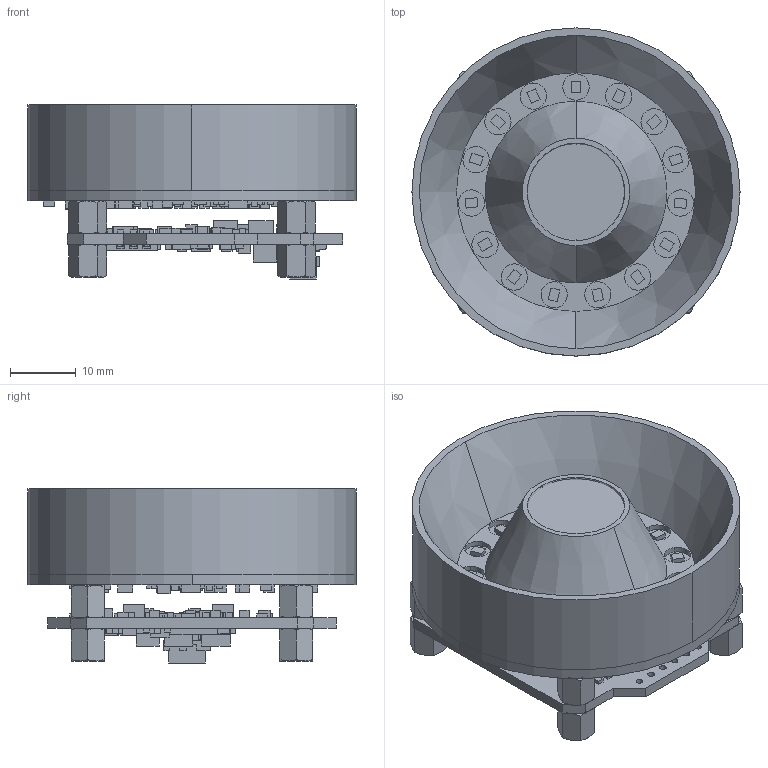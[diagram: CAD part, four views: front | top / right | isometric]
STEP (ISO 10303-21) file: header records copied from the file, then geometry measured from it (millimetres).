
FILE_DESCRIPTION(('STEP AP214'),'1');
FILE_NAME('LUMA500_FLEX.stp','2023-08-24T15:41:52',('Felix Schill'),('Scinamics'),'Spatial InterOp 3D',' ',' ');
FILE_SCHEMA(('AUTOMOTIVE_DESIGN { 1 0 10303 214 1 1 1 1 }'));
Length unit declared in the file: inch
Products named in the file (1): Part_89102242
Bounding box: 50 x 50 x 26.51 mm (x, y, z)
Volume: 19613.1 mm3; surface area: 20443.3 mm2
Topology: 218 solids, 218 shells, 2080 faces, 4765 edges, 3110 vertices
Faces by surface type: plane 1680, cylinder 302, cone 86, sphere 12
Entity records: 101403 total; most frequent: CARTESIAN_POINT 11009, DIRECTION 9915, ORIENTED_EDGE 9474, PRESENTATION_STYLE_ASSIGNMENT 7043, COLOUR_RGB 7043, STYLED_ITEM 6874, CURVE_STYLE 4745, DRAUGHTING_PRE_DEFINED_CURVE_FONT 4745
